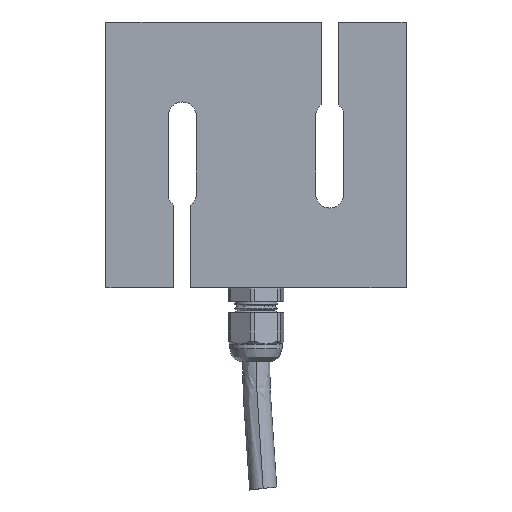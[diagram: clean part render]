
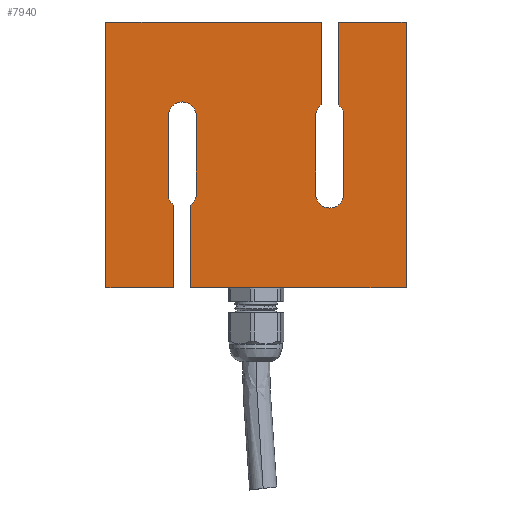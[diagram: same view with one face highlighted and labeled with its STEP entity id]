
A CAD part, left-side view. The second image highlights one B-rep face of the part: STEP entity #7940.
In plain terms, the highlighted planar face has unit normal (-1, 0, 0).
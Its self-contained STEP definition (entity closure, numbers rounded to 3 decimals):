
#722=PLANE('',#8588);
#981=FACE_OUTER_BOUND('',#1473,.T.);
#1473=EDGE_LOOP('',(#5835,#5836,#5837,#5838,#5839,#5840,#5841,#5842,#5843,
#5844,#5845,#5846,#5847,#5848,#5849,#5850,#5851,#5852,#5853,#5854));
#2028=LINE('',#11226,#2634);
#2030=LINE('',#11233,#2636);
#2031=LINE('',#11235,#2637);
#2032=LINE('',#11237,#2638);
#2033=LINE('',#11239,#2639);
#2034=LINE('',#11241,#2640);
#2035=LINE('',#11245,#2641);
#2036=LINE('',#11249,#2642);
#2037=LINE('',#11252,#2643);
#2038=LINE('',#11254,#2644);
#2039=LINE('',#11256,#2645);
#2040=LINE('',#11258,#2646);
#2041=LINE('',#11262,#2647);
#2042=LINE('',#11265,#2648);
#2634=VECTOR('',#9448,1000.);
#2636=VECTOR('',#9454,1000.);
#2637=VECTOR('',#9455,1000.);
#2638=VECTOR('',#9456,1000.);
#2639=VECTOR('',#9457,1000.);
#2640=VECTOR('',#9458,1000.);
#2641=VECTOR('',#9461,1000.);
#2642=VECTOR('',#9464,1000.);
#2643=VECTOR('',#9467,1000.);
#2644=VECTOR('',#9468,1000.);
#2645=VECTOR('',#9469,1000.);
#2646=VECTOR('',#9470,1000.);
#2647=VECTOR('',#9473,1000.);
#2648=VECTOR('',#9476,1000.);
#3272=CIRCLE('',#8589,4.);
#3273=CIRCLE('',#8590,4.);
#3274=CIRCLE('',#8591,4.);
#3275=CIRCLE('',#8592,4.);
#3276=CIRCLE('',#8593,4.);
#3277=CIRCLE('',#8594,4.);
#3529=VERTEX_POINT('',#11223);
#3530=VERTEX_POINT('',#11225);
#3531=VERTEX_POINT('',#11229);
#3532=VERTEX_POINT('',#11230);
#3533=VERTEX_POINT('',#11232);
#3534=VERTEX_POINT('',#11234);
#3535=VERTEX_POINT('',#11236);
#3536=VERTEX_POINT('',#11238);
#3537=VERTEX_POINT('',#11240);
#3538=VERTEX_POINT('',#11242);
#3539=VERTEX_POINT('',#11244);
#3540=VERTEX_POINT('',#11246);
#3541=VERTEX_POINT('',#11248);
#3542=VERTEX_POINT('',#11250);
#3543=VERTEX_POINT('',#11253);
#3544=VERTEX_POINT('',#11255);
#3545=VERTEX_POINT('',#11257);
#3546=VERTEX_POINT('',#11259);
#3547=VERTEX_POINT('',#11261);
#3548=VERTEX_POINT('',#11263);
#4405=EDGE_CURVE('',#3530,#3529,#2028,.T.);
#4407=EDGE_CURVE('',#3531,#3532,#3272,.T.);
#4408=EDGE_CURVE('',#3532,#3533,#2030,.T.);
#4409=EDGE_CURVE('',#3533,#3534,#2031,.T.);
#4410=EDGE_CURVE('',#3534,#3535,#2032,.T.);
#4411=EDGE_CURVE('',#3535,#3536,#2033,.T.);
#4412=EDGE_CURVE('',#3536,#3537,#2034,.T.);
#4413=EDGE_CURVE('',#3537,#3538,#3273,.T.);
#4414=EDGE_CURVE('',#3538,#3539,#2035,.T.);
#4415=EDGE_CURVE('',#3539,#3540,#3274,.T.);
#4416=EDGE_CURVE('',#3540,#3541,#2036,.T.);
#4417=EDGE_CURVE('',#3541,#3542,#3275,.T.);
#4418=EDGE_CURVE('',#3542,#3530,#2037,.T.);
#4419=EDGE_CURVE('',#3529,#3543,#2038,.T.);
#4420=EDGE_CURVE('',#3543,#3544,#2039,.T.);
#4421=EDGE_CURVE('',#3544,#3545,#2040,.T.);
#4422=EDGE_CURVE('',#3545,#3546,#3276,.T.);
#4423=EDGE_CURVE('',#3546,#3547,#2041,.T.);
#4424=EDGE_CURVE('',#3547,#3548,#3277,.T.);
#4425=EDGE_CURVE('',#3548,#3531,#2042,.T.);
#5835=ORIENTED_EDGE('',*,*,#4407,.T.);
#5836=ORIENTED_EDGE('',*,*,#4408,.T.);
#5837=ORIENTED_EDGE('',*,*,#4409,.T.);
#5838=ORIENTED_EDGE('',*,*,#4410,.T.);
#5839=ORIENTED_EDGE('',*,*,#4411,.T.);
#5840=ORIENTED_EDGE('',*,*,#4412,.T.);
#5841=ORIENTED_EDGE('',*,*,#4413,.T.);
#5842=ORIENTED_EDGE('',*,*,#4414,.T.);
#5843=ORIENTED_EDGE('',*,*,#4415,.T.);
#5844=ORIENTED_EDGE('',*,*,#4416,.T.);
#5845=ORIENTED_EDGE('',*,*,#4417,.T.);
#5846=ORIENTED_EDGE('',*,*,#4418,.T.);
#5847=ORIENTED_EDGE('',*,*,#4405,.T.);
#5848=ORIENTED_EDGE('',*,*,#4419,.T.);
#5849=ORIENTED_EDGE('',*,*,#4420,.T.);
#5850=ORIENTED_EDGE('',*,*,#4421,.T.);
#5851=ORIENTED_EDGE('',*,*,#4422,.T.);
#5852=ORIENTED_EDGE('',*,*,#4423,.T.);
#5853=ORIENTED_EDGE('',*,*,#4424,.T.);
#5854=ORIENTED_EDGE('',*,*,#4425,.T.);
#7940=ADVANCED_FACE('',(#981),#722,.T.);
#8588=AXIS2_PLACEMENT_3D('',#11228,#9450,#9451);
#8589=AXIS2_PLACEMENT_3D('',#11231,#9452,#9453);
#8590=AXIS2_PLACEMENT_3D('',#11243,#9459,#9460);
#8591=AXIS2_PLACEMENT_3D('',#11247,#9462,#9463);
#8592=AXIS2_PLACEMENT_3D('',#11251,#9465,#9466);
#8593=AXIS2_PLACEMENT_3D('',#11260,#9471,#9472);
#8594=AXIS2_PLACEMENT_3D('',#11264,#9474,#9475);
#9448=DIRECTION('',(0.,-1.,0.));
#9450=DIRECTION('center_axis',(-1.,0.,0.));
#9451=DIRECTION('ref_axis',(0.,0.,1.));
#9452=DIRECTION('center_axis',(1.,0.,0.));
#9453=DIRECTION('ref_axis',(0.,0.,1.));
#9454=DIRECTION('',(0.,0.,1.));
#9455=DIRECTION('',(0.,1.,0.));
#9456=DIRECTION('',(0.,0.,-1.));
#9457=DIRECTION('',(0.,-1.,0.));
#9458=DIRECTION('',(0.,0.,1.));
#9459=DIRECTION('center_axis',(1.,0.,0.));
#9460=DIRECTION('ref_axis',(0.,0.,1.));
#9461=DIRECTION('',(0.,0.,1.));
#9462=DIRECTION('center_axis',(1.,0.,0.));
#9463=DIRECTION('ref_axis',(0.,0.,1.));
#9464=DIRECTION('',(0.,0.,-1.));
#9465=DIRECTION('center_axis',(1.,0.,0.));
#9466=DIRECTION('ref_axis',(0.,0.,1.));
#9467=DIRECTION('',(0.,0.,-1.));
#9468=DIRECTION('',(0.,0.,1.));
#9469=DIRECTION('',(0.,1.,0.));
#9470=DIRECTION('',(0.,0.,-1.));
#9471=DIRECTION('center_axis',(1.,0.,0.));
#9472=DIRECTION('ref_axis',(0.,0.,1.));
#9473=DIRECTION('',(0.,0.,-1.));
#9474=DIRECTION('center_axis',(1.,0.,0.));
#9475=DIRECTION('ref_axis',(0.,0.,1.));
#9476=DIRECTION('',(0.,0.,1.));
#11223=CARTESIAN_POINT('',(-30.,-49.731,0.));
#11225=CARTESIAN_POINT('',(-30.,11.989,0.));
#11226=CARTESIAN_POINT('',(-30.,11.989,0.));
#11228=CARTESIAN_POINT('Origin',(-30.,14.389,26.9));
#11229=CARTESIAN_POINT('',(-30.,-23.851,49.3));
#11230=CARTESIAN_POINT('',(-30.,-25.451,52.5));
#11231=CARTESIAN_POINT('Origin',(-30.,-27.851,49.3));
#11232=CARTESIAN_POINT('',(-30.,-25.451,76.2));
#11233=CARTESIAN_POINT('',(-30.,-25.451,52.5));
#11234=CARTESIAN_POINT('',(-30.,36.269,76.2));
#11235=CARTESIAN_POINT('',(-30.,-25.451,76.2));
#11236=CARTESIAN_POINT('',(-30.,36.269,0.));
#11237=CARTESIAN_POINT('',(-30.,36.269,76.2));
#11238=CARTESIAN_POINT('',(-30.,16.789,0.));
#11239=CARTESIAN_POINT('',(-30.,36.269,0.));
#11240=CARTESIAN_POINT('',(-30.,16.789,23.7));
#11241=CARTESIAN_POINT('',(-30.,16.789,0.));
#11242=CARTESIAN_POINT('',(-30.,18.389,26.9));
#11243=CARTESIAN_POINT('Origin',(-30.,14.389,26.9));
#11244=CARTESIAN_POINT('',(-30.,18.389,49.3));
#11245=CARTESIAN_POINT('',(-30.,18.389,49.3));
#11246=CARTESIAN_POINT('',(-30.,10.389,49.3));
#11247=CARTESIAN_POINT('Origin',(-30.,14.389,49.3));
#11248=CARTESIAN_POINT('',(-30.,10.389,26.9));
#11249=CARTESIAN_POINT('',(-30.,10.389,49.3));
#11250=CARTESIAN_POINT('',(-30.,11.989,23.7));
#11251=CARTESIAN_POINT('Origin',(-30.,14.389,26.9));
#11252=CARTESIAN_POINT('',(-30.,11.989,23.7));
#11253=CARTESIAN_POINT('',(-30.,-49.731,76.2));
#11254=CARTESIAN_POINT('',(-30.,-49.731,0.));
#11255=CARTESIAN_POINT('',(-30.,-30.251,76.2));
#11256=CARTESIAN_POINT('',(-30.,-49.731,76.2));
#11257=CARTESIAN_POINT('',(-30.,-30.251,52.5));
#11258=CARTESIAN_POINT('',(-30.,-30.251,76.2));
#11259=CARTESIAN_POINT('',(-30.,-31.851,49.3));
#11260=CARTESIAN_POINT('Origin',(-30.,-27.851,49.3));
#11261=CARTESIAN_POINT('',(-30.,-31.851,26.9));
#11262=CARTESIAN_POINT('',(-30.,-31.851,26.9));
#11263=CARTESIAN_POINT('',(-30.,-23.851,26.9));
#11264=CARTESIAN_POINT('Origin',(-30.,-27.851,26.9));
#11265=CARTESIAN_POINT('',(-30.,-23.851,26.9));
